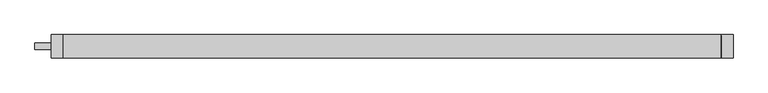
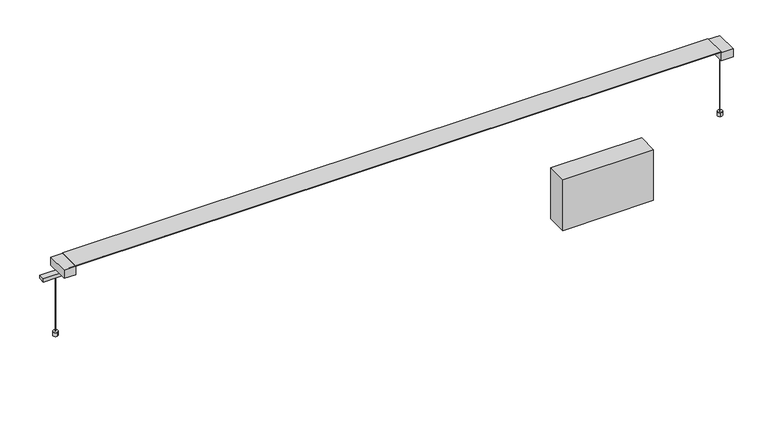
"""IFC4 building model written with IfcOpenShell, lengths in millimetres: light fixture geometry, Fabbian.Pivot F39 (F39 A01A 01,F39 A01A 21,F39 A01A 76,F39 A02A 01,F39 A02A 21,F39 A02A 76) : F39 A01A 01."""

from ifc_helpers import new_model, si_unit, point, frame, frame_2d, origin, origin_with_axes, place, context, project, spatial, polyline, circle_curve, trimmed, segment, composite_curve, outline, extrude, source, transform, mapped, element, save


def light_fixture_ee533db2(model_context):
    return source(origin(), model_context, "Body", "SweptSolid", [
        extrude(outline(composite_curve([segment(trimmed(circle_curve(frame_2d((-815.8132834, 0.0)), 0.4949808), [point((-816.3082642, 0.0))], [point((-815.3183026, 0.0))], False, "CARTESIAN"), True, "CONTINUOUS"), segment(trimmed(circle_curve(frame_2d((-815.8132834, 0.0)), 0.4949808), [point((-815.3183026, 0.0))], [point((-816.3082642, 0.0))], False, "CARTESIAN"), True, "CONTINUOUS")], self_intersect=False)), origin_with_axes(), (0.0, 0.0, 1.0), 151.6242394),
        extrude(outline(polyline([(619.1350388, 24.9666442), (619.1350388, -25.0334567), (399.1348055, -25.0334567), (399.1348055, 24.9666442), (619.1350388, 24.9666442)])), frame((0.0, 0.0, -142.875), z_axis=(0.0, 0.0, 1.0), x_axis=(1.0, 0.0, 0.0)), (0.0, 0.0, 1.0), 130.175),
        extrude(outline(composite_curve([segment(trimmed(circle_curve(frame_2d((794.2560169, 0.0)), 0.4949808), [point((794.7509977, 0.0))], [point((793.7610361, 0.0))], False, "CARTESIAN"), True, "CONTINUOUS"), segment(trimmed(circle_curve(frame_2d((794.2560169, 0.0)), 0.4949808), [point((793.7610361, 0.0))], [point((794.7509977, 0.0))], False, "CARTESIAN"), True, "CONTINUOUS")], self_intersect=False)), origin_with_axes(), (0.0, 0.0, 1.0), 159.6242394),
        extrude(outline(polyline([(-0.4107254, 159.893756), (-26.3879175, 181.0787506), (25.5497693, 181.0787506), (0.4107259, 159.893756), (0.4107259, 160.681594), (-0.4107254, 160.681594), (-0.4107254, 159.893756)])), frame((-782.3132834, 0.0, 0.0), z_axis=(1.0, 0.0, 0.0), x_axis=(0.0, 1.0, 0.0)), (0.0, 0.0, 1.0), 1564.6265668),
        extrude(outline(polyline([(-782.3132834, 27.7285043), (-782.3132834, -27.7953166), (-810.5140956, -27.7953166), (-810.5140956, 27.7285043), (-782.3132834, 27.7285043)])), frame((0.0, 0.0, 159.6242394), z_axis=(0.0, 0.0, 1.0), x_axis=(1.0, 0.0, 0.0)), (0.0, 0.0, 1.0), 20.8761838),
        extrude(outline(polyline([(782.3132834, 27.7285042), (810.5140956, 27.7285042), (810.5140956, -27.7953167), (782.3132834, -27.7953167), (782.3132834, 27.7285042)])), frame((0.0, 0.0, 159.6242394), z_axis=(0.0, 0.0, 1.0), x_axis=(1.0, 0.0, 0.0)), (0.0, 0.0, 1.0), 20.8761838),
        extrude(outline(polyline([(0.0, -0.8214513), (0.0, 0.0), (1564.6265668, 0.0), (1564.6265668, -0.8214513), (0.0, -0.8214513)])), frame((-782.3132834, 0.4107259, 159.893756), z_axis=(-5.7155291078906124e-11, 0.0, 1.0), x_axis=(1.0, 0.0, 5.7155291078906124e-11)), (0.0, 0.0, 1.0), 0.787838),
        extrude(outline(polyline([(781.7488887, -27.7780006), (-782.3132834, -27.7780006), (-782.3132834, 27.7779986), (781.7488887, 27.7779986), (781.7488887, -27.7780006)])), frame((0.0, 0.0, 181.0787506), z_axis=(0.0, 0.0, 1.0), x_axis=(1.0, 0.0, 0.0)), (0.0, 0.0, 1.0), 1.1514277),
        extrude(outline(composite_curve([segment(trimmed(circle_curve(frame_2d((-815.8133121, -0.4556113)), 5.8155806), [point((-816.6410047, 5.3007681))], [point((-814.9856195, -6.2119906))], False, "CARTESIAN"), True, "CONTINUOUS"), segment(trimmed(circle_curve(frame_2d((-815.8133121, -0.4556113)), 5.8155806), [point((-814.9856195, -6.2119906))], [point((-816.6410047, 5.3007681))], False, "CARTESIAN"), True, "CONTINUOUS")], self_intersect=False)), origin_with_axes(), (0.0, 0.0, 1.0), 9.6582083),
        extrude(outline(composite_curve([segment(trimmed(circle_curve(frame_2d((794.2560169, -0.4556113)), 5.8155806), [point((795.0837096, 5.3007681))], [point((793.4283243, -6.2119906))], False, "CARTESIAN"), True, "CONTINUOUS"), segment(trimmed(circle_curve(frame_2d((794.2560169, -0.4556113)), 5.8155806), [point((793.4283243, -6.2119906))], [point((795.0837096, 5.3007681))], False, "CARTESIAN"), True, "CONTINUOUS")], self_intersect=False)), origin_with_axes(), (0.0, 0.0, 1.0), 9.6582083),
        extrude(outline(polyline([(-782.3132834, -7.5334062), (-849.3132834, -7.5334062), (-849.3132834, 7.4665938), (-782.3132834, 7.4665938), (-782.3132834, -7.5334062)])), frame((0.0, 0.0, 151.6242394), z_axis=(0.0, 0.0, 1.0), x_axis=(1.0, 0.0, 0.0)), (0.0, 0.0, 1.0), 8.0),
    ])


if __name__ == "__main__":
    model = new_model("IFC4")
    model_context = context("Model", 3, world=origin())
    ifc_project = project(units=[si_unit("LENGTHUNIT", "METRE", prefix="MILLI")], contexts=[model_context])
    site = spatial("IfcSite", under=ifc_project)
    building = spatial("IfcBuilding", under=site)
    placement = place(None, origin())
    light_fixture_shape = light_fixture_ee533db2(model_context)
    element("IfcLightFixture", 1, ObjectType="Fabbian.Pivot F39 (F39 A01A 01,F39 A01A 21,F39 A01A 76,F39 A02A 01,F39 A02A 21,F39 A02A 76) : F39 A01A 01", at=placement, inside=building, context=model_context, shape_type="MappedRepresentation", body=[
        mapped(light_fixture_shape, transform((0.0, 0.0, 0.0), x_axis=(1.0, 0.0, 0.0), y_axis=(0.0, 1.0, 0.0), z_axis=(0.0, 0.0, 1.0))),
    ])
    save(model, "model.ifc")
